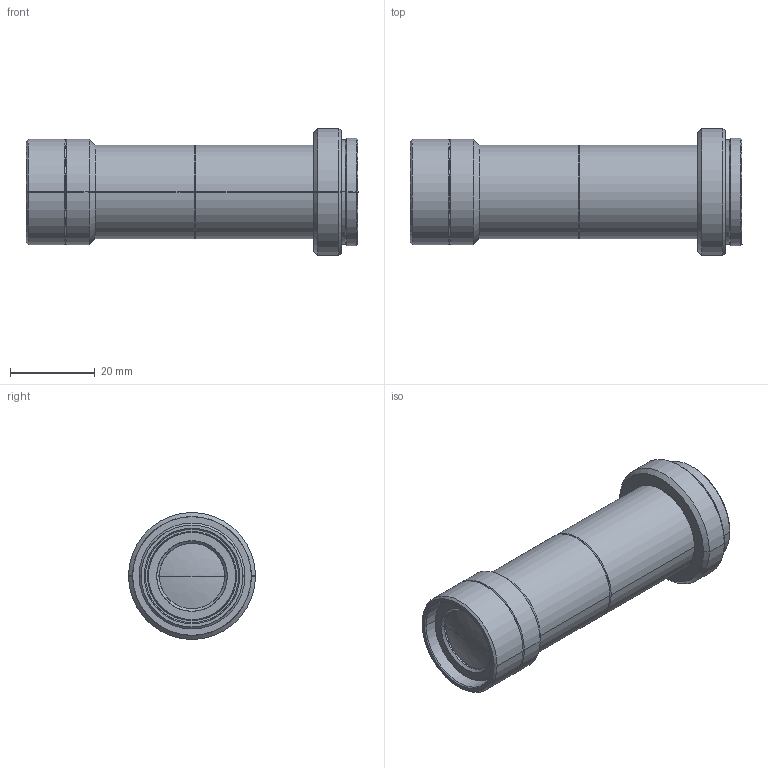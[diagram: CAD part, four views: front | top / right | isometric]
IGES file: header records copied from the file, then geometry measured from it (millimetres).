
Start section: SolidWorks IGES file using analytic representation for surfaces
Global section: file name: C:\Documents and Settings\Tsuji_vst\My Documents\図面\_3D\VS-TCH1.5-65.IGS,1; native system: 5HSolidWorks 2012; preprocessor: SolidWorks 2012; author: Tsuji_vst; date: 130911.155057; units: millimetre
Bounding box: 78.4 x 30 x 30 mm (x, y, z)
Surface area: 10135.1 mm2 (no closed solid volume)
Topology: 0 solids, 0 shells, 89 faces, 1080 edges, 1076 vertices
Faces by surface type: revolution 74, bspline 15
